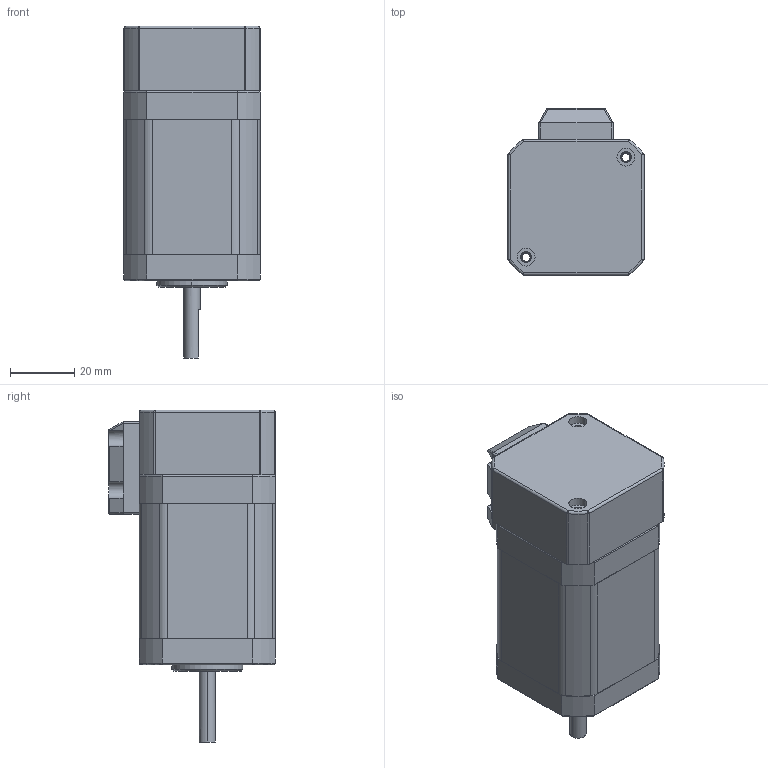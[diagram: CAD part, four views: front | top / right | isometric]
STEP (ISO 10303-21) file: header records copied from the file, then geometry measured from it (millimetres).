
FILE_DESCRIPTION (( 'STEP AP214' ), '1' );
FILE_NAME ('S42-60-M3.STEP', '2024-12-13T02:56:16', ( 'Muse' ), ( 'Muse' ), 'SwSTEP 2.0', 'SolidWorks 2020', '' );
FILE_SCHEMA (( 'AUTOMOTIVE_DESIGN' ));
Length unit declared in the file: millimetre
Products named in the file (10): S42-60-M3; 蛌赽郪璃; 42邧謂揤盄啣; 蛌粣; 4B0421004 42-30-1.8 隅赽_42--30-1.8 隅赽; 晤鎢ん郪璃; 605 粣創; 4B0420004 电泳后盖_电泳后盖; 4B0420003 萇蚞ヶ裔_萇蚞ヶ裔; 42綴欶
Assembly tree (10 placements, depth 3):
  S42-60-M3
    4B0420004 电泳后盖_电泳后盖
    蛌赽郪璃
      蛌粣
      605 粣創  x2
    4B0421004 42-30-1.8 隅赽_42--30-1.8 隅赽
    4B0420003 萇蚞ヶ裔_萇蚞ヶ裔
    晤鎢ん郪璃
      42綴欶
      42邧謂揤盄啣
Bounding box: 42.2 x 51.7 x 103 mm (x, y, z)
Volume: 60491.6 mm3; surface area: 56223.2 mm2
Topology: 9 solids, 9 shells, 1009 faces, 3034 edges, 1938 vertices
Faces by surface type: cylinder 519, plane 289, torus 100, sphere 90, cone 10, bspline 1
Entity records: 31319 total; most frequent: CARTESIAN_POINT 6071, DIRECTION 5312, ORIENTED_EDGE 5152, EDGE_CURVE 2576, AXIS2_PLACEMENT_3D 2039, VERTEX_POINT 1681, LINE 1234, VECTOR 1234
